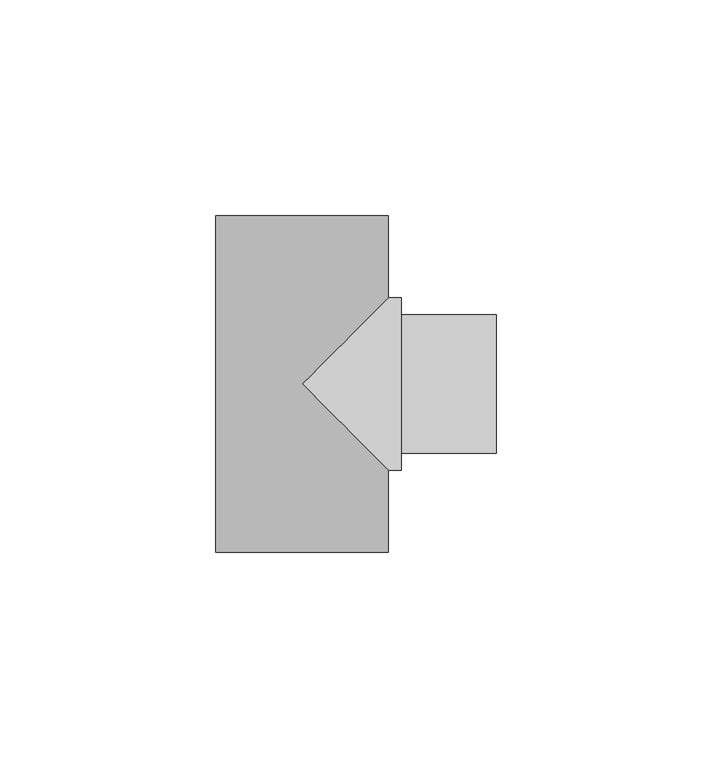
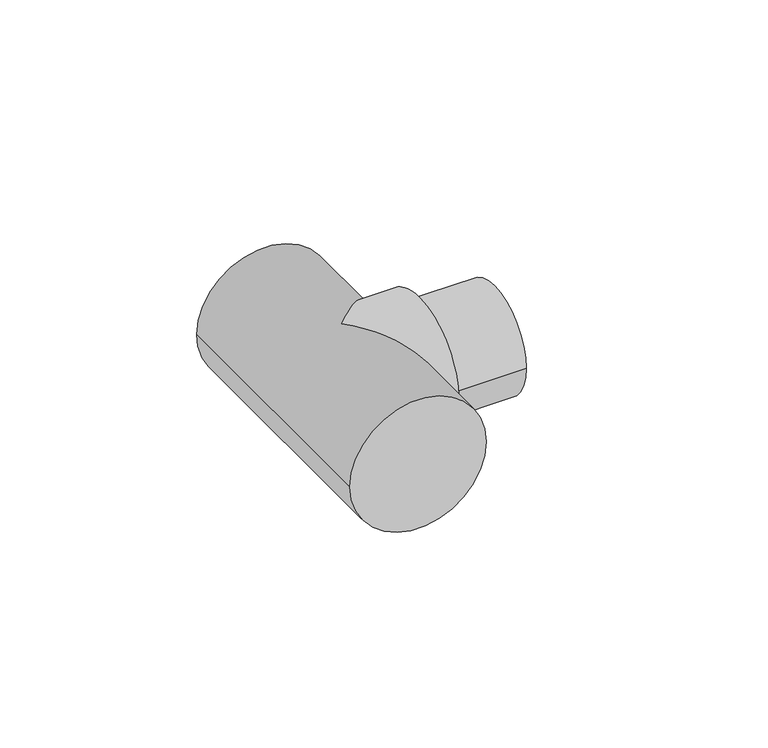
"""IFC4 building model written with IfcOpenShell, lengths in millimetres: pipe fitting geometry, 01051309 : Tes 90º reducidas H/M."""

import ifcopenshell
import ifcopenshell.guid

model = None  # the IFC model being written
_history = None  # IfcOwnerHistory: only IFC2X3 demands one
_inside = {}  # id of a spatial element -> (the spatial element, [elements in it])
_under = {}  # id of a project, library or spatial element -> (it, [spatial elements below it])
_declared = {}  # id of a project -> (the project, [libraries it declares])
_typed = {}  # id of a type object -> (the type object, [elements of that type])
_made_of = {}  # id of a material, layer set ... -> (it, [elements and type objects made of it])


def new_model(schema):
    """Start an empty IFC model of exactly this schema.

    Asked for "IFC4X3", IfcOpenShell would pick the latest addendum, in which some entities
    have other attributes; the version numbers below select the first issue.
    IFC2X3 requires an IfcOwnerHistory on every rooted entity: one is made here for all.
    """
    global model, _history
    if schema == "IFC4X3":
        model = ifcopenshell.file(schema_version=(4, 3, 0, 0))
    else:
        model = ifcopenshell.file(schema=schema)
    _inside.clear()
    _under.clear()
    _declared.clear()
    _typed.clear()
    _made_of.clear()
    _history = None
    if model.schema == "IFC2X3":
        org = make("IfcOrganization", Name="unknown")
        user = make(
            "IfcPersonAndOrganization",
            ThePerson=make("IfcPerson", FamilyName="unknown"),
            TheOrganization=org,
        )
        app = make(
            "IfcApplication",
            ApplicationDeveloper=org,
            Version="unknown",
            ApplicationFullName="unknown",
            ApplicationIdentifier="unknown",
        )
        _history = make(
            "IfcOwnerHistory",
            OwningUser=user,
            OwningApplication=app,
            ChangeAction="ADDED",
            CreationDate=0,
        )
    return model


def make(cls, **values):
    """One entity of the class cls with the attributes given. An attribute that is None is left unset."""
    return model.create_entity(
        cls, **{name: value for name, value in values.items() if value is not None}
    )


def rooted(cls, **values):
    """An entity with a GlobalId (a new one), such as an element, a storey or a relation."""
    return make(cls, GlobalId=ifcopenshell.guid.new(), OwnerHistory=_history, **values)


def si_unit(unit_type, name, prefix=None):
    """IfcSIUnit, for example si_unit("LENGTHUNIT", "METRE", prefix="MILLI")."""
    return make("IfcSIUnit", UnitType=unit_type, Prefix=prefix, Name=name)


def assignment(units):
    """IfcUnitAssignment: the units of a project."""
    return None if units is None else make("IfcUnitAssignment", Units=units)


def point(xyz):
    """IfcCartesianPoint."""
    return None if xyz is None else make("IfcCartesianPoint", Coordinates=xyz)


def direction(xyz):
    """IfcDirection."""
    return None if xyz is None else make("IfcDirection", DirectionRatios=xyz)


def frame(location, z_axis=None, x_axis=None):
    """IfcAxis2Placement3D, a coordinate frame: its origin and axes. An axis left out is left unset."""
    return make(
        "IfcAxis2Placement3D",
        Location=point(location),
        Axis=direction(z_axis),
        RefDirection=direction(x_axis),
    )


def frame_2d(location, x_axis=None):
    """IfcAxis2Placement2D, a coordinate frame in the plane: its origin and x axis."""
    return make(
        "IfcAxis2Placement2D", Location=point(location), RefDirection=direction(x_axis)
    )


def origin():
    """The frame at (0, 0, 0) with its axes left unset."""
    return frame((0.0, 0.0, 0.0))


def origin_2d():
    """The frame at (0, 0) in the plane with its x axis left unset."""
    return frame_2d((0.0, 0.0))


def place(relative_to, where):
    """IfcLocalPlacement: puts the frame where relative to a parent placement (None: the world)."""
    return make(
        "IfcLocalPlacement", PlacementRelTo=relative_to, RelativePlacement=where
    )


def context(
    kind, dimensions, precision=None, world=None, true_north=None, identifier=None
):
    """IfcGeometricRepresentationContext, for example the 3D "Model" context."""
    return make(
        "IfcGeometricRepresentationContext",
        ContextIdentifier=identifier,
        ContextType=kind,
        CoordinateSpaceDimension=dimensions,
        Precision=precision,
        WorldCoordinateSystem=world,
        TrueNorth=true_north,
    )


def project(units=None, contexts=None):
    """IfcProject with its units and contexts."""
    return rooted(
        "IfcProject",
        Name="project",
        RepresentationContexts=contexts,
        UnitsInContext=assignment(units),
    )


def spatial(cls, under=None, at=None, **own):
    """A site, building, storey or space (cls), placed at a placement, below another one or the project."""
    s = rooted(cls, ObjectPlacement=at, **own)
    if under is not None:
        _under.setdefault(under.id(), (under, []))[1].append(s)
    return s


def circle_curve(where, radius):
    """IfcCircle in the frame where."""
    return make("IfcCircle", Position=where, Radius=radius)


def ellipse_curve(where, semi_axis1, semi_axis2):
    """IfcEllipse in the frame where."""
    return make(
        "IfcEllipse", Position=where, SemiAxis1=semi_axis1, SemiAxis2=semi_axis2
    )


def trimmed(basis, trim1, trim2, sense, master):
    """IfcTrimmedCurve: the piece of a basis curve between two trims."""
    return make(
        "IfcTrimmedCurve",
        BasisCurve=basis,
        Trim1=trim1,
        Trim2=trim2,
        SenseAgreement=sense,
        MasterRepresentation=master,
    )


def segment(curve, same_sense, transition):
    """IfcCompositeCurveSegment."""
    return make(
        "IfcCompositeCurveSegment",
        Transition=transition,
        SameSense=same_sense,
        ParentCurve=curve,
    )


def composite_curve(segments, self_intersect=None):
    """IfcCompositeCurve: segments joined end to end."""
    return make("IfcCompositeCurve", Segments=segments, SelfIntersect=self_intersect)


def outline(outer, holes=None, kind="AREA"):
    """IfcArbitraryClosedProfileDef: a profile drawn as a closed curve; with holes, ...WithVoids."""
    if holes is None:
        return make("IfcArbitraryClosedProfileDef", ProfileType=kind, OuterCurve=outer)
    return make(
        "IfcArbitraryProfileDefWithVoids",
        ProfileType=kind,
        OuterCurve=outer,
        InnerCurves=holes,
    )


def extrude(swept, where, along, depth):
    """IfcExtrudedAreaSolid: the profile swept, set in the frame where, extruded along a direction by depth."""
    return make(
        "IfcExtrudedAreaSolid",
        SweptArea=swept,
        Position=where,
        ExtrudedDirection=direction(along),
        Depth=depth,
    )


def shape(context_of_items, identifier, shape_type, items):
    """IfcShapeRepresentation: the items that make up one representation, for example the "Body"."""
    return make(
        "IfcShapeRepresentation",
        ContextOfItems=context_of_items,
        RepresentationIdentifier=identifier,
        RepresentationType=shape_type,
        Items=items,
    )


def source(mapping_origin, context_of_items, identifier, shape_type, items):
    """IfcRepresentationMap: a shape defined once, which mapped items show again and again."""
    return make(
        "IfcRepresentationMap",
        MappingOrigin=mapping_origin,
        MappedRepresentation=shape(context_of_items, identifier, shape_type, items),
    )


def transform(
    local_origin,
    x_axis=None,
    y_axis=None,
    z_axis=None,
    scale=None,
    scale2=None,
    scale3=None,
    uniform=True,
):
    """IfcCartesianTransformationOperator3D, or its non-uniform kind. x_axis, y_axis, z_axis: its Axis1, 2, 3."""
    if uniform:
        return make(
            "IfcCartesianTransformationOperator3D",
            Axis1=direction(x_axis),
            Axis2=direction(y_axis),
            LocalOrigin=point(local_origin),
            Scale=scale,
            Axis3=direction(z_axis),
        )
    return make(
        "IfcCartesianTransformationOperator3DnonUniform",
        Axis1=direction(x_axis),
        Axis2=direction(y_axis),
        LocalOrigin=point(local_origin),
        Scale=scale,
        Axis3=direction(z_axis),
        Scale2=scale2,
        Scale3=scale3,
    )


def mapped(mapping_source, mapping_target):
    """IfcMappedItem: shows the shape of a source again, moved by a transform."""
    return make(
        "IfcMappedItem", MappingSource=mapping_source, MappingTarget=mapping_target
    )


def made_of(thing, what):
    """Note that an element or type object is made of a material, layer set ...; save() writes the relation."""
    if what is not None:
        _made_of.setdefault(what.id(), (what, []))[1].append(thing)
    return thing


def element(
    cls,
    number,
    at=None,
    inside=None,
    cuts=None,
    type_object=None,
    material=None,
    context=None,
    identifier="Body",
    shape_type=None,
    held_by="IfcProductDefinitionShape",
    body=None,
    shapes=None,
    **own,
):
    """One element of the class cls, such as IfcWall. Its Tag is "e" and its number.

    at: its placement. inside: the storey or other place that contains it. cuts: it is an
    opening in that element (IfcRelVoidsElement). A single representation is given by context,
    identifier, shape_type and body (its items); several are given by shapes. held_by: the class
    of the entity that holds the representations. save() writes the other relations.
    """
    e = rooted(cls, Tag="e%d" % number, ObjectPlacement=at, **own)
    if body is not None:
        shapes = [shape(context, identifier, shape_type, body)]
    if shapes is not None:
        e.Representation = make(held_by, Representations=shapes)
    if inside is not None:
        _inside.setdefault(inside.id(), (inside, []))[1].append(e)
    if cuts is not None:
        rooted(
            "IfcRelVoidsElement", RelatingBuildingElement=cuts, RelatedOpeningElement=e
        )
    if type_object is not None:
        _typed.setdefault(type_object.id(), (type_object, []))[1].append(e)
    return made_of(e, material)


def aggregate(whole, parts):
    """IfcRelAggregates: a whole, such as a stair, and the parts it consists of."""
    return rooted("IfcRelAggregates", RelatingObject=whole, RelatedObjects=parts)


def save(model, path):
    """Write the relations noted so far, then the file.

    IfcRelAggregates (storeys below a building ...), IfcRelContainedInSpatialStructure (elements
    in a storey), IfcRelDefinesByType, IfcRelAssociatesMaterial and IfcRelDeclares: one each for
    every whole, place, type object, material and project.
    """
    for whole, parts in _under.values():
        aggregate(whole, parts)
    for where, things in _inside.values():
        rooted(
            "IfcRelContainedInSpatialStructure",
            RelatedElements=things,
            RelatingStructure=where,
        )
    for kind, things in _typed.values():
        rooted("IfcRelDefinesByType", RelatedObjects=things, RelatingType=kind)
    for what, things in _made_of.values():
        rooted("IfcRelAssociatesMaterial", RelatedObjects=things, RelatingMaterial=what)
    for by, libraries in _declared.values():
        rooted("IfcRelDeclares", RelatingContext=by, RelatedDefinitions=libraries)
    model.write(path)


def plane_surface(at):
    """IfcPlane: the flat surface through the origin of the frame at, square to its z axis."""
    return make("IfcPlane", Position=at)


def cylinder_surface(at, radius):
    """IfcCylindricalSurface: all points at the distance radius from the z axis of the frame at."""
    return make("IfcCylindricalSurface", Position=at, Radius=radius)


def advanced_brep(points, edges, surfaces, faces):
    """IfcAdvancedBrep: a solid bounded by faces that lie on surfaces and meet in shared edges.

    An edge is (start, end): straight between two places in points (the first is 0);
    or (start, end, curve); or (start, end, curve, False) where it runs against its curve.
    A face is (place in surfaces, loops), or (place, loops, False) where it looks against
    its surface's normal. A loop lists edges by number (the first is 1), with a minus sign
    where the edge is run from its end to its start. The first loop is the outer one.
    """
    corners = [point(p) for p in points]
    vertices = [make("IfcVertexPoint", VertexGeometry=c) for c in corners]
    made = []
    for start, end, *more in edges:
        made.append(
            make(
                "IfcEdgeCurve",
                EdgeStart=vertices[start],
                EdgeEnd=vertices[end],
                EdgeGeometry=more[0] if more else make("IfcPolyline", Points=[corners[start], corners[end]]),
                SameSense=more[1] if len(more) > 1 else True,
            )
        )
    hull = []
    for where, loops, *sense in faces:
        bounds = []
        for j, loop in enumerate(loops):
            ring = [make("IfcOrientedEdge", EdgeElement=made[abs(k) - 1], Orientation=k > 0) for k in loop]
            bounds.append(
                make(
                    "IfcFaceOuterBound" if j == 0 else "IfcFaceBound",
                    Bound=make("IfcEdgeLoop", EdgeList=ring),
                    Orientation=True,
                )
            )
        hull.append(make("IfcAdvancedFace", Bounds=bounds, FaceSurface=surfaces[where], SameSense=sense[0] if sense else True))
    return make("IfcAdvancedBrep", Outer=make("IfcClosedShell", CfsFaces=hull))


def pipe_fitting_546daf3f(model_context):
    return source(origin(), model_context, "Body", "SolidModel", [
        advanced_brep(
        [(-20.0, 39.0, 0.0), (20.0, 39.0, 0.0), (-20.0, -39.0, 0.0), (20.0, -39.0, 0.0), (20.0, -20.0, 0.0), (0.0, 0.0, 20.0), (20.0, 20.0, 0.0), (0.0, 0.0, -20.0), (23.0, 20.0, 0.0), (23.0, -20.0, 0.0)],
        [
            (0, 1, circle_curve(frame((0.0, 39.0, 0.0), z_axis=(0.0, 1.0, 0.0), x_axis=(1.0, 0.0, 0.0)), 20.0)),
            (1, 0, circle_curve(frame((0.0, 39.0, 0.0), z_axis=(0.0, 1.0, 0.0), x_axis=(1.0, 0.0, 0.0)), 20.0)),
            (2, 3, circle_curve(frame((0.0, -39.0, 0.0), z_axis=(0.0, -1.0, 0.0), x_axis=(1.0, 0.0, 0.0)), 20.0)),
            (3, 2, circle_curve(frame((0.0, -39.0, 0.0), z_axis=(0.0, -1.0, 0.0), x_axis=(1.0, 0.0, 0.0)), 20.0)),
            (0, 2),
            (3, 4),
            (4, 5, ellipse_curve(frame((0.0, 0.0, 0.0), z_axis=(-0.7071067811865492, -0.7071067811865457, 0.0), x_axis=(-0.7071067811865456, 0.7071067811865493, 0.0)), 28.2842712, 20.0)),
            (5, 6, ellipse_curve(frame((0.0, 0.0, 0.0), z_axis=(-0.7071067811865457, 0.7071067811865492, 0.0), x_axis=(0.7071067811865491, 0.7071067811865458, 0.0)), 28.2842712, 20.0)),
            (6, 1),
            (6, 7, ellipse_curve(frame((0.0, 0.0, 0.0), z_axis=(-0.7071067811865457, 0.7071067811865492, 0.0), x_axis=(0.7071067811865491, 0.7071067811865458, 0.0)), 28.2842712, 20.0)),
            (7, 4, ellipse_curve(frame((0.0, 0.0, 0.0), z_axis=(-0.7071067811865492, -0.7071067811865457, 0.0), x_axis=(-0.7071067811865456, 0.7071067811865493, 0.0)), 28.2842712, 20.0)),
            (8, 9, circle_curve(frame((23.0, 0.0, 0.0), z_axis=(1.0, 0.0, 0.0), x_axis=(0.0, -1.0, 0.0)), 20.0)),
            (9, 8, circle_curve(frame((23.0, 0.0, 0.0), z_axis=(1.0, 0.0, 0.0), x_axis=(0.0, -1.0, 0.0)), 20.0)),
            (8, 6),
            (4, 9),
        ],
        [
            plane_surface(frame((0.0, 39.0, 0.0), z_axis=(0.0, 1.0, 0.0), x_axis=(0.0, 0.0, 1.0))),
            plane_surface(frame((0.0, -39.0, 0.0), z_axis=(0.0, -1.0, 0.0), x_axis=(0.0, 0.0, 1.0))),
            cylinder_surface(frame((0.0, 39.0, 0.0), z_axis=(0.0, 1.0, 0.0), x_axis=(1.0, 0.0, 0.0)), 20.0),
            plane_surface(frame((23.0, 0.0, 0.0), z_axis=(1.0, 0.0, 0.0), x_axis=(0.0, 0.0, 1.0))),
            cylinder_surface(frame((23.0, 0.0, 0.0), z_axis=(1.0, 0.0, 0.0), x_axis=(0.0, -1.0, 0.0)), 20.0),
        ],
        [
            (0, [[1, 2]]),
            (1, [[3, 4]]),
            (2, [[-1, 5, -4, 6, 7, 8, 9]]),
            (2, [[-2, -9, 10, 11, -6, -3, -5]]),
            (3, [[12, 13]]),
            (4, [[-12, 14, -8, -7, 15]]),
            (4, [[-13, -15, -11, -10, -14]]),
        ],
    ),
        extrude(outline(composite_curve([segment(trimmed(circle_curve(origin_2d(), 16.0), [point((16.0, 0.0))], [point((-16.0, 0.0))], False, "CARTESIAN"), True, "CONTINUOUS"), segment(trimmed(circle_curve(origin_2d(), 16.0), [point((-16.0, 0.0))], [point((16.0, 0.0))], False, "CARTESIAN"), True, "CONTINUOUS")], self_intersect=False)), frame((23.0, 0.0, 0.0), z_axis=(1.0, 0.0, 0.0), x_axis=(0.0, 1.0, 0.0)), (0.0, 0.0, 1.0), 22.0),
    ])


if __name__ == "__main__":
    model = new_model("IFC4")
    model_context = context("Model", 3, world=origin())
    ifc_project = project(units=[si_unit("LENGTHUNIT", "METRE", prefix="MILLI")], contexts=[model_context])
    site = spatial("IfcSite", under=ifc_project)
    building = spatial("IfcBuilding", under=site)
    placement = place(None, origin())
    pipe_fitting_shape = pipe_fitting_546daf3f(model_context)
    element("IfcPipeFitting", 1, ObjectType="01051309 : Tes 90º reducidas H/M", at=placement, inside=building, context=model_context, shape_type="MappedRepresentation", body=[
        mapped(pipe_fitting_shape, transform((0.0, 0.0, 0.0), x_axis=(1.0, 0.0, 0.0), y_axis=(0.0, 1.0, 0.0), z_axis=(0.0, 0.0, 1.0))),
    ])
    save(model, "model.ifc")
